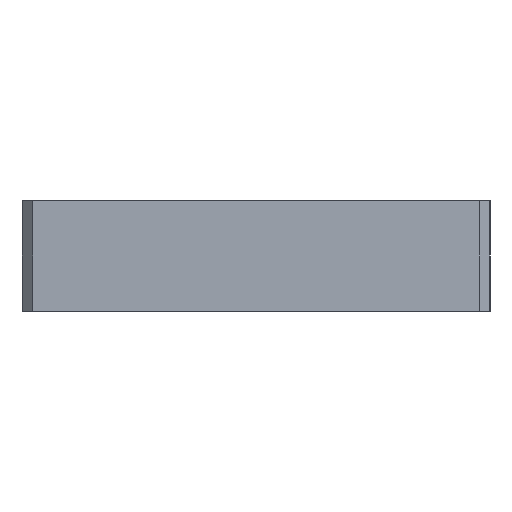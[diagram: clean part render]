
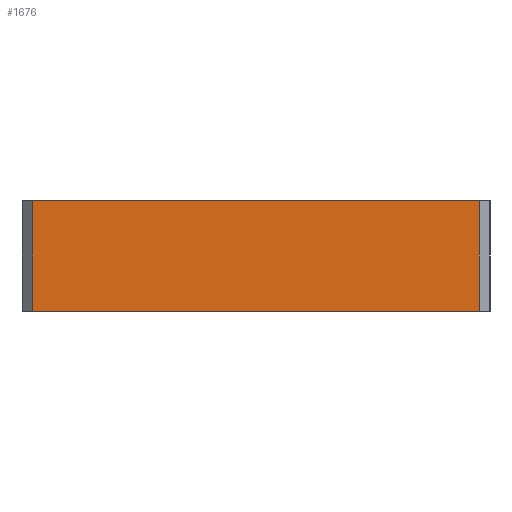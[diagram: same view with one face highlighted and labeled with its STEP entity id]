
A CAD part, left-side view. The second image highlights one B-rep face of the part: STEP entity #1676.
In plain terms, the highlighted planar face has unit normal (-1, 0, 0).
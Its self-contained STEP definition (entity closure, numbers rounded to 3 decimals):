
#1649=AXIS2_PLACEMENT_3D('Plane Axis2P3D',#1646,#1647,#1648) ;
#1620=CARTESIAN_POINT('Line Origine',(-145.,105.,-26.)) ;
#1624=CARTESIAN_POINT('Vertex',(-145.,105.,0.)) ;
#1626=CARTESIAN_POINT('Vertex',(-145.,105.,-52.)) ;
#1646=CARTESIAN_POINT('Axis2P3D Location',(-145.,-110.,0.)) ;
#1651=CARTESIAN_POINT('Line Origine',(-145.,0.,0.)) ;
#1655=CARTESIAN_POINT('Vertex',(-145.,-105.,0.)) ;
#1658=CARTESIAN_POINT('Line Origine',(-145.,0.,-52.)) ;
#1662=CARTESIAN_POINT('Vertex',(-145.,-105.,-52.)) ;
#1665=CARTESIAN_POINT('Line Origine',(-145.,-105.,-26.)) ;
#1621=DIRECTION('Vector Direction',(0.,0.,-1.)) ;
#1647=DIRECTION('Axis2P3D Direction',(-1.,0.,0.)) ;
#1648=DIRECTION('Axis2P3D XDirection',(0.,1.,0.)) ;
#1652=DIRECTION('Vector Direction',(0.,1.,0.)) ;
#1659=DIRECTION('Vector Direction',(0.,1.,0.)) ;
#1666=DIRECTION('Vector Direction',(0.,0.,1.)) ;
#1622=VECTOR('Line Direction',#1621,1.) ;
#1653=VECTOR('Line Direction',#1652,1.) ;
#1660=VECTOR('Line Direction',#1659,1.) ;
#1667=VECTOR('Line Direction',#1666,1.) ;
#1671=ORIENTED_EDGE('',*,*,#1657,.F.) ;
#1672=ORIENTED_EDGE('',*,*,#1628,.T.) ;
#1673=ORIENTED_EDGE('',*,*,#1664,.T.) ;
#1674=ORIENTED_EDGE('',*,*,#1669,.F.) ;
#1676=ADVANCED_FACE('PartBody',(#1675),#1650,.T.) ;
#1628=EDGE_CURVE('',#1625,#1627,#1623,.T.) ;
#1657=EDGE_CURVE('',#1625,#1656,#1654,.F.) ;
#1664=EDGE_CURVE('',#1627,#1663,#1661,.F.) ;
#1669=EDGE_CURVE('',#1656,#1663,#1668,.F.) ;
#1670=EDGE_LOOP('',(#1671,#1672,#1673,#1674)) ;
#1675=FACE_OUTER_BOUND('',#1670,.T.) ;
#1623=LINE('Line',#1620,#1622) ;
#1654=LINE('Line',#1651,#1653) ;
#1661=LINE('Line',#1658,#1660) ;
#1668=LINE('Line',#1665,#1667) ;
#1650=PLANE('',#1649) ;
#1625=VERTEX_POINT('',#1624) ;
#1627=VERTEX_POINT('',#1626) ;
#1656=VERTEX_POINT('',#1655) ;
#1663=VERTEX_POINT('',#1662) ;
